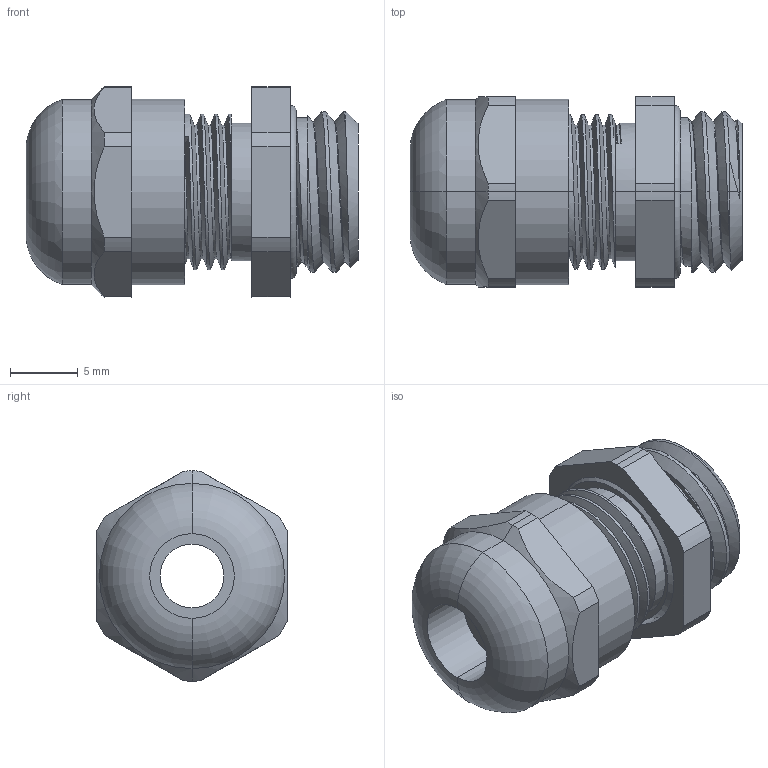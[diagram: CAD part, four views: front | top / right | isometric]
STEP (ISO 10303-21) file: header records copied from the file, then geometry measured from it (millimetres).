
FILE_DESCRIPTION (( 'STEP AP214' ), '1' );
FILE_NAME ('MCG-M12.STEP', '2010-11-22T21:35:44', ( 'Mencom29332' ), ( '' ), 'SwSTEP 2.0', 'SolidWorks 2010', '' );
FILE_SCHEMA (( 'AUTOMOTIVE_DESIGN' ));
Length unit declared in the file: inch
Products named in the file (1): MCG-M12
Bounding box: 24.46 x 14 x 15.49 mm (x, y, z)
Volume: 2294.2 mm3; surface area: 2288 mm2
Topology: 1 solids, 1 shells, 93 faces, 244 edges, 158 vertices
Faces by surface type: cylinder 47, plane 27, bspline 8, cone 7, torus 4
Entity records: 6029 total; most frequent: CARTESIAN_POINT 2606, ORIENTED_EDGE 488, DIRECTION 433, EDGE_CURVE 244, AXIS2_PLACEMENT_3D 171, VERTEX_POINT 158, EDGE_LOOP 102, DIMENSIONAL_EXPONENTS 96
